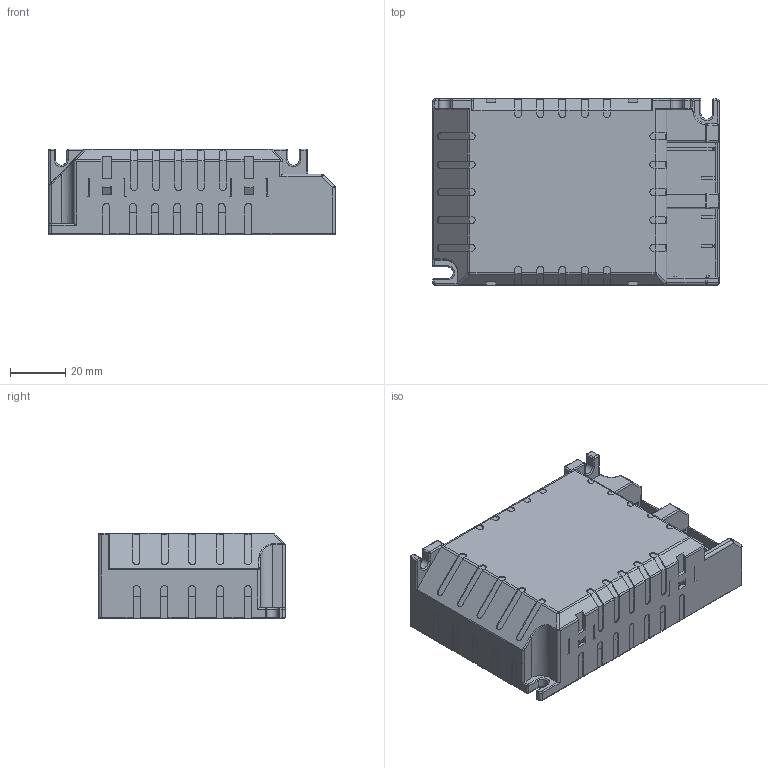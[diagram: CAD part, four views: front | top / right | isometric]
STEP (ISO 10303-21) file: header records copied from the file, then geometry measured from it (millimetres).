
FILE_DESCRIPTION(('Creo Elements/Direct Modeling STEP Export'),'2;1');
FILE_NAME('3D_K2.stp','2019-07-08T10:27:40',(''),(''),'PTC Creo Elements/Direct Modeling STEP processor for AP214 (Solid Model)','PTC Creo Elements/Direct Modeling 19.0E 27-Jun-2016 (C) Parametric Technology GmbH','');
FILE_SCHEMA(('AUTOMOTIVE_DESIGN { 1 0 10303 214 1 1 1 1 }'));
Products named in the file (2): 3D_K2
Assembly tree (1 placements, depth 2):
  3D_K2
    3D_K2
Bounding box: 103.6 x 67.4 x 31 mm (x, y, z)
Volume: 36393.9 mm3; surface area: 48622.6 mm2
Topology: 1 solids, 1 shells, 2275 faces, 6563 edges, 4285 vertices
Faces by surface type: plane 1974, cylinder 229, sphere 29, bspline 24, torus 17, cone 2
Entity records: 76330 total; most frequent: CARTESIAN_POINT 16302, ORIENTED_EDGE 13064, DIRECTION 11483, EDGE_CURVE 6532, VECTOR 5947, LINE 5947, VERTEX_POINT 4285, AXIS2_PLACEMENT_3D 2768
